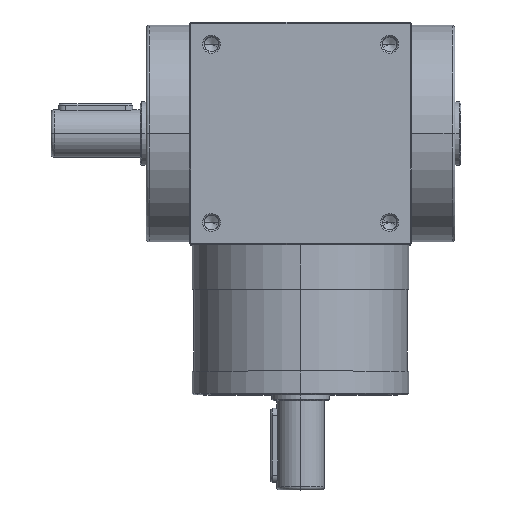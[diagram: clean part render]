
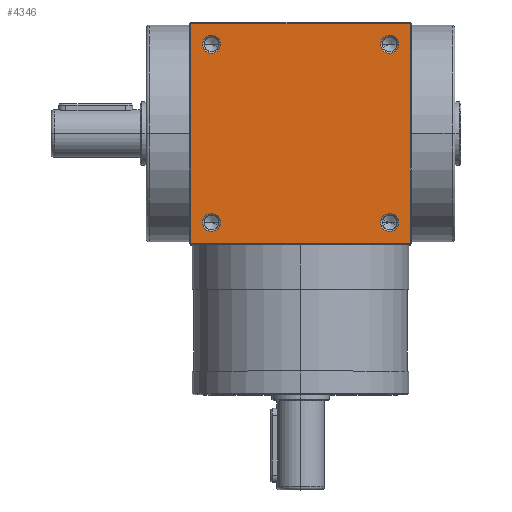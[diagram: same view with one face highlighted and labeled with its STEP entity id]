
A CAD part, top view. The second image highlights one B-rep face of the part: STEP entity #4346.
In plain terms, the highlighted planar face has unit normal (0, 0, 1).
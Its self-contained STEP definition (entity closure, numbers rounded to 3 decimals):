
#2 = CARTESIAN_POINT ( 'NONE',  ( -37., -37., 37.5 ) ) ;
#82 = DIRECTION ( 'NONE',  ( -1., 0., 0. ) ) ;
#109 = DIRECTION ( 'NONE',  ( -1., 0., 0. ) ) ;
#232 = CIRCLE ( 'NONE', #3168, 3. ) ;
#234 = CIRCLE ( 'NONE', #308, 3. ) ;
#308 = AXIS2_PLACEMENT_3D ( 'NONE', #3447, #7413, #6601 ) ;
#433 = ORIENTED_EDGE ( 'NONE', *, *, #554, .T. ) ;
#465 = CARTESIAN_POINT ( 'NONE',  ( -27., -30., 37.5 ) ) ;
#554 = EDGE_CURVE ( 'NONE', #3275, #4831, #7600, .T. ) ;
#639 = EDGE_LOOP ( 'NONE', ( #995, #3562 ) ) ;
#716 = CARTESIAN_POINT ( 'NONE',  ( 27., -30., 37.5 ) ) ;
#995 = ORIENTED_EDGE ( 'NONE', *, *, #3462, .T. ) ;
#1131 = CARTESIAN_POINT ( 'NONE',  ( 30., 30., 37.5 ) ) ;
#1132 = CARTESIAN_POINT ( 'NONE',  ( 33., -30., 37.5 ) ) ;
#1302 = VERTEX_POINT ( 'NONE', #4950 ) ;
#1400 = CARTESIAN_POINT ( 'NONE',  ( -33., -30., 37.5 ) ) ;
#1486 = EDGE_CURVE ( 'NONE', #7646, #4279, #4799, .T. ) ;
#1622 = VECTOR ( 'NONE', #6048, 1000. ) ;
#1658 = DIRECTION ( 'NONE',  ( -1., 0., 0. ) ) ;
#1748 = ORIENTED_EDGE ( 'NONE', *, *, #2031, .T. ) ;
#1825 = DIRECTION ( 'NONE',  ( -1., 0., 0. ) ) ;
#1863 = AXIS2_PLACEMENT_3D ( 'NONE', #8526, #6188, #109 ) ;
#2031 = EDGE_CURVE ( 'NONE', #4831, #3275, #234, .T. ) ;
#2138 = CIRCLE ( 'NONE', #8695, 3. ) ;
#2184 = CIRCLE ( 'NONE', #1863, 3. ) ;
#2187 = CARTESIAN_POINT ( 'NONE',  ( -27., 30., 37.5 ) ) ;
#2275 = ORIENTED_EDGE ( 'NONE', *, *, #5554, .T. ) ;
#2301 = DIRECTION ( 'NONE',  ( 1., 0., 0. ) ) ;
#2305 = EDGE_CURVE ( 'NONE', #4322, #6226, #2184, .T. ) ;
#2307 = CARTESIAN_POINT ( 'NONE',  ( 0., 0., 37.5 ) ) ;
#2312 = DIRECTION ( 'NONE',  ( -1., 0., 0. ) ) ;
#2373 = VERTEX_POINT ( 'NONE', #6725 ) ;
#2450 = CARTESIAN_POINT ( 'NONE',  ( 0., 37., 37.5 ) ) ;
#2509 = EDGE_CURVE ( 'NONE', #4604, #2373, #232, .T. ) ;
#2626 = AXIS2_PLACEMENT_3D ( 'NONE', #2307, #4631, #82 ) ;
#2643 = DIRECTION ( 'NONE',  ( 0., 0., -1. ) ) ;
#2709 = LINE ( 'NONE', #7597, #1622 ) ;
#2778 = EDGE_CURVE ( 'NONE', #4279, #7646, #8621, .T. ) ;
#3168 = AXIS2_PLACEMENT_3D ( 'NONE', #9871, #5261, #1658 ) ;
#3209 = ORIENTED_EDGE ( 'NONE', *, *, #5907, .T. ) ;
#3229 = FACE_OUTER_BOUND ( 'NONE', #5989, .T. ) ;
#3270 = AXIS2_PLACEMENT_3D ( 'NONE', #3848, #4640, #6168 ) ;
#3275 = VERTEX_POINT ( 'NONE', #1400 ) ;
#3447 = CARTESIAN_POINT ( 'NONE',  ( -30., -30., 37.5 ) ) ;
#3451 = FACE_BOUND ( 'NONE', #4752, .T. ) ;
#3462 = EDGE_CURVE ( 'NONE', #2373, #4604, #2138, .T. ) ;
#3463 = CARTESIAN_POINT ( 'NONE',  ( -30., -30., 37.5 ) ) ;
#3562 = ORIENTED_EDGE ( 'NONE', *, *, #2509, .T. ) ;
#3571 = ORIENTED_EDGE ( 'NONE', *, *, #7545, .T. ) ;
#3810 = CARTESIAN_POINT ( 'NONE',  ( -30., 30., 37.5 ) ) ;
#3848 = CARTESIAN_POINT ( 'NONE',  ( 30., -30., 37.5 ) ) ;
#3921 = FACE_BOUND ( 'NONE', #639, .T. ) ;
#4279 = VERTEX_POINT ( 'NONE', #2187 ) ;
#4322 = VERTEX_POINT ( 'NONE', #716 ) ;
#4346 = ADVANCED_FACE ( 'NONE', ( #3451, #8243, #3921, #8983, #3229 ), #9255, .F. ) ;
#4406 = VECTOR ( 'NONE', #4807, 1000. ) ;
#4604 = VERTEX_POINT ( 'NONE', #7222 ) ;
#4631 = DIRECTION ( 'NONE',  ( 0., 0., -1. ) ) ;
#4640 = DIRECTION ( 'NONE',  ( 0., 0., -1. ) ) ;
#4659 = VECTOR ( 'NONE', #2312, 1000. ) ;
#4669 = CARTESIAN_POINT ( 'NONE',  ( -37., 37., 37.5 ) ) ;
#4692 = CIRCLE ( 'NONE', #3270, 3. ) ;
#4746 = ORIENTED_EDGE ( 'NONE', *, *, #8343, .T. ) ;
#4752 = EDGE_LOOP ( 'NONE', ( #3571, #6508 ) ) ;
#4797 = DIRECTION ( 'NONE',  ( 0., 0., -1. ) ) ;
#4799 = CIRCLE ( 'NONE', #7246, 3. ) ;
#4807 = DIRECTION ( 'NONE',  ( 0., -1., 0. ) ) ;
#4831 = VERTEX_POINT ( 'NONE', #465 ) ;
#4950 = CARTESIAN_POINT ( 'NONE',  ( 37., -37., 37.5 ) ) ;
#5010 = LINE ( 'NONE', #2450, #4659 ) ;
#5047 = DIRECTION ( 'NONE',  ( -1., 0., 0. ) ) ;
#5127 = DIRECTION ( 'NONE',  ( -1., 0., 0. ) ) ;
#5261 = DIRECTION ( 'NONE',  ( 0., 0., -1. ) ) ;
#5494 = CARTESIAN_POINT ( 'NONE',  ( -33., 30., 37.5 ) ) ;
#5554 = EDGE_CURVE ( 'NONE', #8330, #9228, #9197, .T. ) ;
#5717 = ORIENTED_EDGE ( 'NONE', *, *, #1486, .T. ) ;
#5725 = VERTEX_POINT ( 'NONE', #8064 ) ;
#5739 = AXIS2_PLACEMENT_3D ( 'NONE', #3810, #7641, #5990 ) ;
#5778 = CARTESIAN_POINT ( 'NONE',  ( -30., 30., 37.5 ) ) ;
#5802 = EDGE_LOOP ( 'NONE', ( #1748, #433 ) ) ;
#5879 = DIRECTION ( 'NONE',  ( 0., 0., -1. ) ) ;
#5880 = EDGE_CURVE ( 'NONE', #1302, #5725, #2709, .T. ) ;
#5907 = EDGE_CURVE ( 'NONE', #9228, #1302, #6051, .T. ) ;
#5965 = ORIENTED_EDGE ( 'NONE', *, *, #5880, .T. ) ;
#5989 = EDGE_LOOP ( 'NONE', ( #2275, #3209, #5965, #4746 ) ) ;
#5990 = DIRECTION ( 'NONE',  ( -1., 0., 0. ) ) ;
#6048 = DIRECTION ( 'NONE',  ( 0., 1., 0. ) ) ;
#6051 = LINE ( 'NONE', #8418, #7019 ) ;
#6168 = DIRECTION ( 'NONE',  ( -1., 0., 0. ) ) ;
#6188 = DIRECTION ( 'NONE',  ( 0., 0., -1. ) ) ;
#6226 = VERTEX_POINT ( 'NONE', #1132 ) ;
#6508 = ORIENTED_EDGE ( 'NONE', *, *, #2305, .T. ) ;
#6601 = DIRECTION ( 'NONE',  ( -1., 0., 0. ) ) ;
#6694 = EDGE_LOOP ( 'NONE', ( #9385, #5717 ) ) ;
#6725 = CARTESIAN_POINT ( 'NONE',  ( 33., 30., 37.5 ) ) ;
#7019 = VECTOR ( 'NONE', #2301, 1000. ) ;
#7222 = CARTESIAN_POINT ( 'NONE',  ( 27., 30., 37.5 ) ) ;
#7246 = AXIS2_PLACEMENT_3D ( 'NONE', #5778, #5879, #5127 ) ;
#7413 = DIRECTION ( 'NONE',  ( 0., 0., -1. ) ) ;
#7545 = EDGE_CURVE ( 'NONE', #6226, #4322, #4692, .T. ) ;
#7597 = CARTESIAN_POINT ( 'NONE',  ( 37., 0., 37.5 ) ) ;
#7600 = CIRCLE ( 'NONE', #8773, 3. ) ;
#7641 = DIRECTION ( 'NONE',  ( 0., 0., -1. ) ) ;
#7646 = VERTEX_POINT ( 'NONE', #5494 ) ;
#8064 = CARTESIAN_POINT ( 'NONE',  ( 37., 37., 37.5 ) ) ;
#8243 = FACE_BOUND ( 'NONE', #5802, .T. ) ;
#8330 = VERTEX_POINT ( 'NONE', #4669 ) ;
#8343 = EDGE_CURVE ( 'NONE', #5725, #8330, #5010, .T. ) ;
#8418 = CARTESIAN_POINT ( 'NONE',  ( 0., -37., 37.5 ) ) ;
#8526 = CARTESIAN_POINT ( 'NONE',  ( 30., -30., 37.5 ) ) ;
#8535 = CARTESIAN_POINT ( 'NONE',  ( -37., 0., 37.5 ) ) ;
#8621 = CIRCLE ( 'NONE', #5739, 3. ) ;
#8695 = AXIS2_PLACEMENT_3D ( 'NONE', #1131, #4797, #1825 ) ;
#8773 = AXIS2_PLACEMENT_3D ( 'NONE', #3463, #2643, #5047 ) ;
#8983 = FACE_BOUND ( 'NONE', #6694, .T. ) ;
#9197 = LINE ( 'NONE', #8535, #4406 ) ;
#9228 = VERTEX_POINT ( 'NONE', #2 ) ;
#9255 = PLANE ( 'NONE',  #2626 ) ;
#9385 = ORIENTED_EDGE ( 'NONE', *, *, #2778, .T. ) ;
#9871 = CARTESIAN_POINT ( 'NONE',  ( 30., 30., 37.5 ) ) ;
